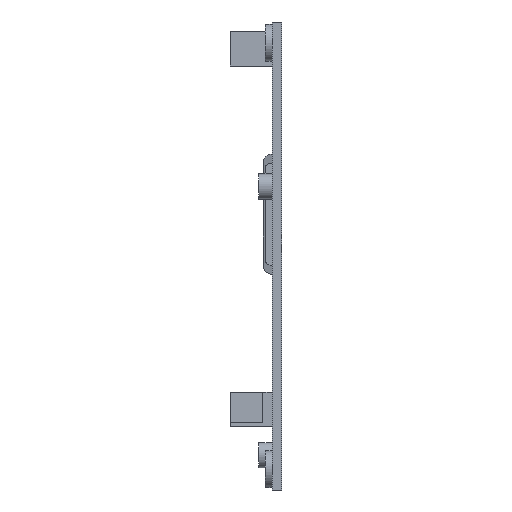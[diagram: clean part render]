
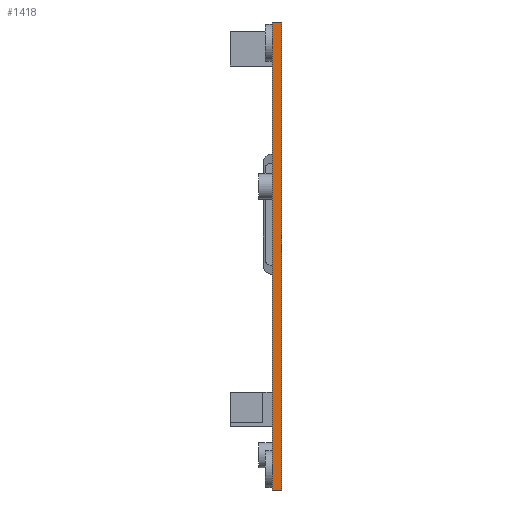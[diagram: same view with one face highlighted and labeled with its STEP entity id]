
A CAD part, left-side view. The second image highlights one B-rep face of the part: STEP entity #1418.
In plain terms, the highlighted planar face has unit normal (-1, 0, 0).
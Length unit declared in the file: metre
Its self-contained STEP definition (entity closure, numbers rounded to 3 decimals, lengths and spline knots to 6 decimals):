
#187=ORIENTED_EDGE('',*,*,#531,.T.);
#188=ORIENTED_EDGE('',*,*,#577,.T.);
#189=ORIENTED_EDGE('',*,*,#563,.F.);
#190=ORIENTED_EDGE('',*,*,#578,.F.);
#531=EDGE_CURVE('',#729,#727,#853,.F.);
#563=EDGE_CURVE('',#760,#761,#868,.F.);
#577=EDGE_CURVE('',#727,#761,#880,.T.);
#578=EDGE_CURVE('',#729,#760,#881,.T.);
#727=VERTEX_POINT('',#2151);
#729=VERTEX_POINT('',#2154);
#760=VERTEX_POINT('',#2218);
#761=VERTEX_POINT('',#2219);
#853=LINE('',#2153,#994);
#868=LINE('',#2217,#1009);
#880=LINE('',#2244,#1021);
#881=LINE('',#2245,#1022);
#994=VECTOR('',#1708,1.);
#1009=VECTOR('',#1759,1.);
#1021=VECTOR('',#1781,1.);
#1022=VECTOR('',#1782,1.);
#1135=EDGE_LOOP('',(#187,#188,#189,#190));
#1260=FACE_BOUND('',#1135,.T.);
#1364=PLANE('',#1548);
#1418=ADVANCED_FACE('',(#1260),#1364,.T.);
#1548=AXIS2_PLACEMENT_3D('',#2243,#1779,#1780);
#1708=DIRECTION('',(0.,0.,1.));
#1759=DIRECTION('',(0.,0.,1.));
#1779=DIRECTION('',(-1.,0.,0.));
#1780=DIRECTION('',(0.,-1.,0.));
#1781=DIRECTION('',(0.,-1.,0.));
#1782=DIRECTION('',(0.,-1.,0.));
#2151=CARTESIAN_POINT('',(-0.08195,-0.003,-0.0505));
#2153=CARTESIAN_POINT('',(-0.08195,-0.003,-0.04197));
#2154=CARTESIAN_POINT('',(-0.08195,-0.003,0.0505));
#2217=CARTESIAN_POINT('',(-0.08195,-0.005,-0.04197));
#2218=CARTESIAN_POINT('',(-0.08195,-0.005,0.0505));
#2219=CARTESIAN_POINT('',(-0.08195,-0.005,-0.0505));
#2243=CARTESIAN_POINT('',(-0.08195,-0.008512,0.000898));
#2244=CARTESIAN_POINT('',(-0.08195,-0.008512,-0.0505));
#2245=CARTESIAN_POINT('',(-0.08195,-0.006025,0.0505));
